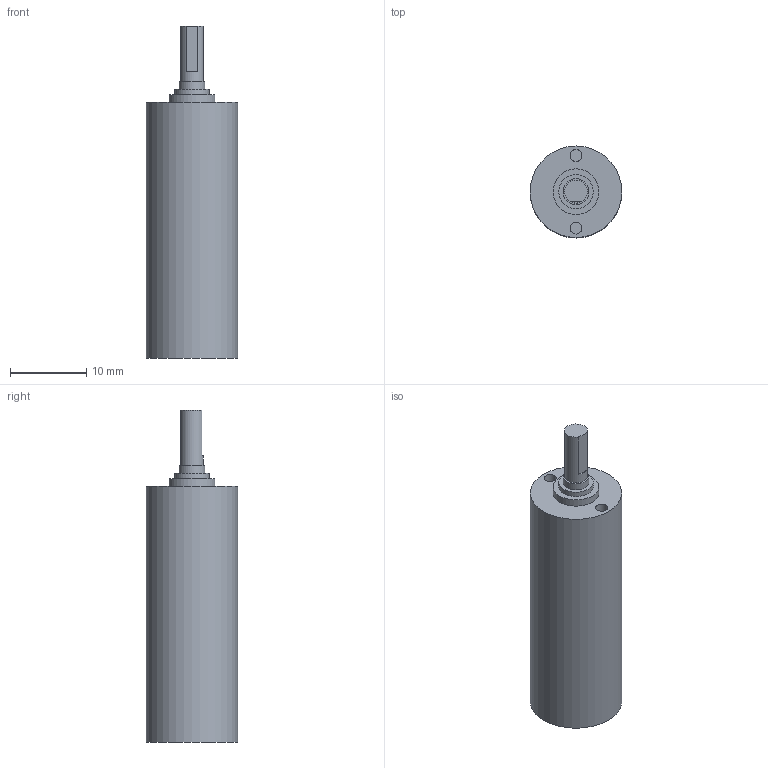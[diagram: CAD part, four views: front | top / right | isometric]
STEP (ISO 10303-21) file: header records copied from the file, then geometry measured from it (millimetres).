
FILE_DESCRIPTION((''),'2;1');
FILE_NAME('G:\Disegni\Progetti\D8500÷D8599\D8514\Riduttori\E - Riduttori STEP - SBZ\12_4 STEP\12_4 5stage.stp','2012-05-24T15:48:21',('bonazzoli'),(''),'Autodesk Inventor 2012','Autodesk Inventor 2012','');
FILE_SCHEMA(('AUTOMOTIVE_DESIGN { 1 0 10303 214 1 1 1 1 }'));
Length unit declared in the file: millimetre
Products named in the file (1): 12_4 5stage
Bounding box: 12 x 12 x 43.5 mm (x, y, z)
Volume: 3879.9 mm3; surface area: 1616.6 mm2
Topology: 1 solids, 1 shells, 17 faces, 27 edges, 18 vertices
Faces by surface type: plane 10, cylinder 7
Full cylindrical faces by diameter (mm): 1.567 x2, 3 x1, 3.4 x1, 4.5 x1, 6 x1, 12 x1
Entity records: 378 total; most frequent: DIRECTION 70, CARTESIAN_POINT 54, ORIENTED_EDGE 38, AXIS2_PLACEMENT_3D 33, EDGE_LOOP 30, EDGE_CURVE 19, VERTEX_POINT 17, FACE_OUTER_BOUND 17
